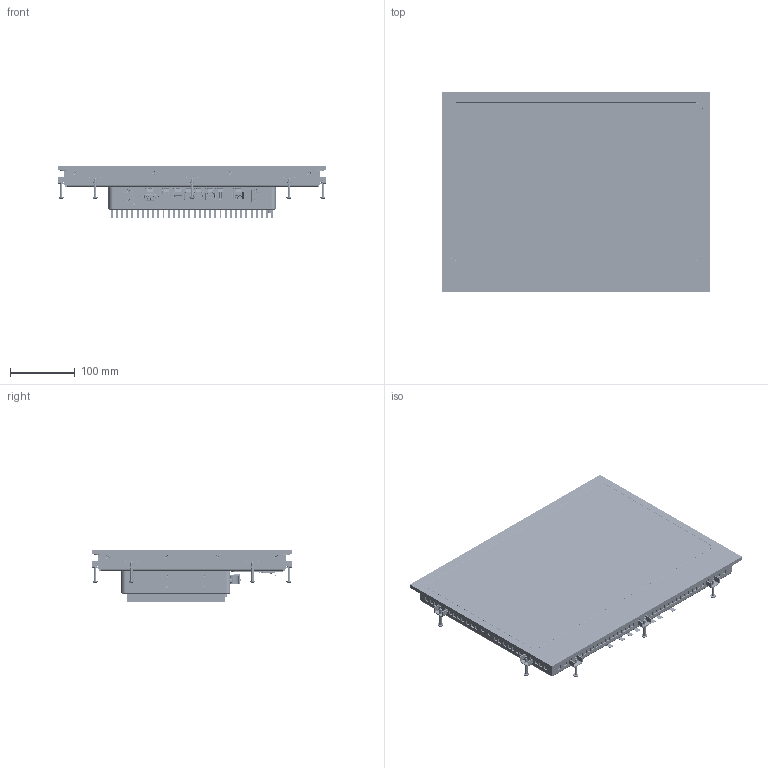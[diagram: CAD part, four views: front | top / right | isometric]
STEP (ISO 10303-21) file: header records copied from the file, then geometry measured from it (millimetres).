
FILE_DESCRIPTION(/* description */ (''),/* implementation_level */ '2;1');
FILE_NAME(/* name */ 'D:\Modelle vereinfacht\notion.S\CPU 6\15.4 Zoll\778-11978-01_EXTERN1.stp',/* time_stamp */ '2025-07-09T09:48:38+02:00',/* author */ ('Blessing'),/* organization */ (''),/* preprocessor_version */ 'ST-DEVELOPER v18.1',/* originating_system */ 'Autodesk Inventor 2021',/* authorisation */ '');
FILE_SCHEMA (('AUTOMOTIVE_DESIGN { 1 0 10303 214 3 1 1 }'));
Products named in the file (8): Baugruppe47; Baugruppe15_Shrinkwrap_2; 778-90247_EXTERN; 778-90247-001_IAM_000; 778-90247-002_IPT_000; 778-90247-003_IPT_000; 64-196-296_EXTERN; 64-196-296_IPT_000
Assembly tree (23 placements, depth 4):
  Baugruppe47
    Baugruppe15_Shrinkwrap_2
    778-90247_EXTERN
      778-90247-001_IAM_000  x10
        778-90247-002_IPT_000
        778-90247-003_IPT_000
    64-196-296_EXTERN
      64-196-296_IPT_000  x8
Bounding box: 415 x 310 x 79.4 mm (x, y, z)
Volume: 5415777.7 mm3; surface area: 541279.3 mm2
Topology: 29 solids, 53 shells, 14592 faces, 41239 edges, 26886 vertices
Faces by surface type: plane 9809, cylinder 3141, bspline 857, cone 387, torus 357, sphere 41
Full cylindrical faces by diameter (mm): 0.434 x1, 0.457 x1, 0.5 x11, 0.6 x3, 0.65 x8, 0.8 x1, 0.85 x1, 0.95 x8, 1.1 x1, 1.2 x2, 1.4 x2, 2 x1, 2.156 x2, 2.5 x4, 2.8 x2, 3.242 x10, 4 x12, 4.7 x8, 5.54 x25, 6 x12, 6.2 x12, 7 x1, 7.2 x12
Entity records: 439829 total; most frequent: CARTESIAN_POINT 106044, ORIENTED_EDGE 69707, DIRECTION 61305, EDGE_CURVE 35585, LINE 27223, VECTOR 27223, VERTEX_POINT 23291, AXIS2_PLACEMENT_3D 17041
